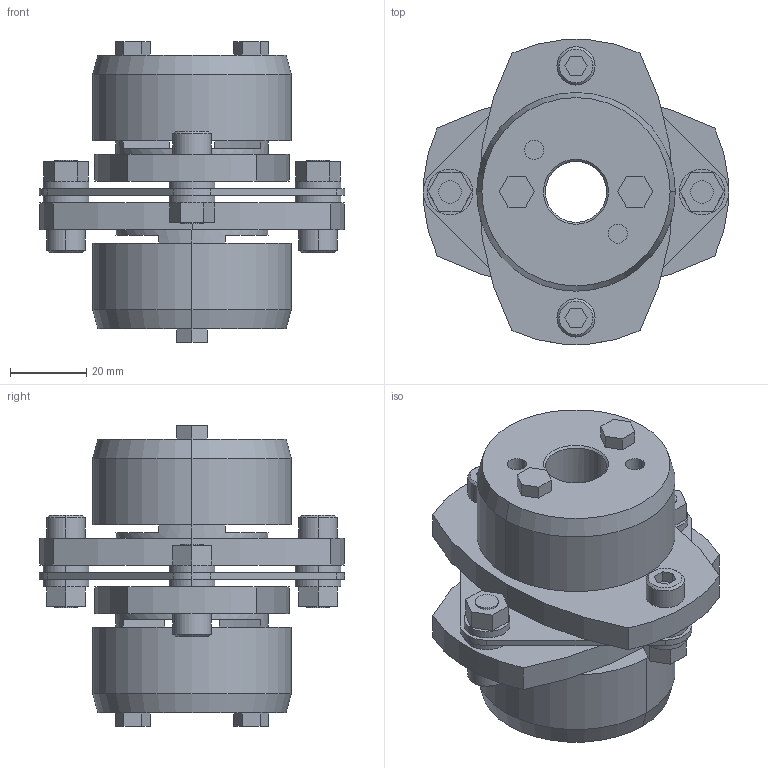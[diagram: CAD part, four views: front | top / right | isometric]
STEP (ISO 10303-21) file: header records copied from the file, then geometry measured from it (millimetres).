
FILE_DESCRIPTION((''),'2;1');
FILE_NAME('LCS-80T7-16×18.stp','2015-10-31T17:33:10',(''),(''),'AutoCAD STEP 2000i','AutoCAD 2000i',', , ');
FILE_SCHEMA(('CONFIG_CONTROL_DESIGN'));
Length unit declared in the file: millimetre
Products named in the file (5): LCS-80T7-17×17; 忣兜1; LC80T7-T017-1; LC80T7-T017; LCS80-ITA
Assembly tree (4 placements, depth 2):
  LCS-80T7-17×17
    忣兜1
    LC80T7-T017-1
    LC80T7-T017
    LCS80-ITA
Bounding box: 80 x 79.95 x 78.75 mm (x, y, z)
Volume: 144022.9 mm3; surface area: 41147.3 mm2
Topology: 1 solids, 1 shells, 218 faces, 532 edges, 348 vertices
Faces by surface type: plane 118, cylinder 80, cone 20
Entity records: 6619 total; most frequent: DIRECTION 1174, CARTESIAN_POINT 1103, ORIENTED_EDGE 1064, EDGE_CURVE 532, AXIS2_PLACEMENT_3D 419, VERTEX_POINT 348, VECTOR 336, LINE 336
